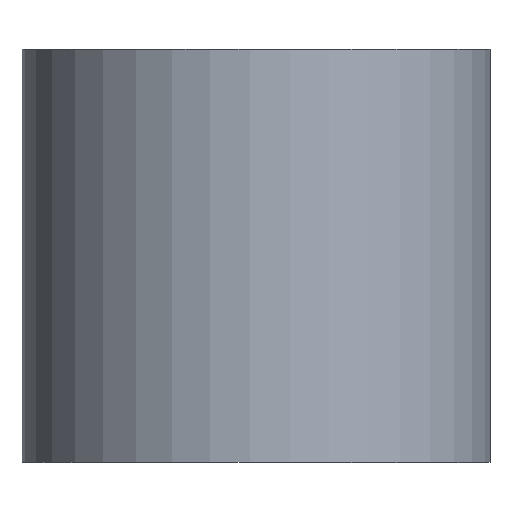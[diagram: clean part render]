
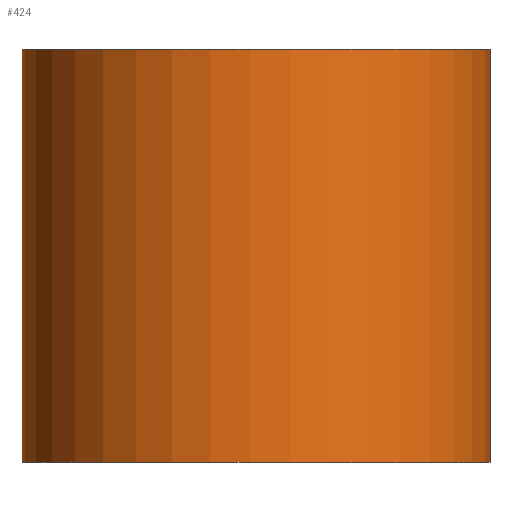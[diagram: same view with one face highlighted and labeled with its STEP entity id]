
A CAD part, top view. The second image highlights one B-rep face of the part: STEP entity #424.
In plain terms, the highlighted cylindrical face has radius 4.5 mm (diameter 9 mm), a partial arc.
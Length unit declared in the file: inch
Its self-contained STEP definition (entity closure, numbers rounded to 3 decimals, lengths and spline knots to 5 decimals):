
#20 = B_SPLINE_CURVE_WITH_KNOTS ( 'NONE', 3,
 ( #251, #719, #786, #331, #46, #596, #666, #723, #279, #507, #296, #756, #456, #584 ),
 .UNSPECIFIED., .F., .F.,
 ( 4, 2, 2, 2, 2, 2, 4 ),
 ( 0., 0.00102, 0.00154, 0.00205, 0.00256, 0.00307, 0.0041 ),
 .UNSPECIFIED. ) ;
#46 = CARTESIAN_POINT ( 'NONE',  ( 0.21364, 0.12962, 0.30715 ) ) ;
#60 = CARTESIAN_POINT ( 'NONE',  ( 0.20149, 0.3125, 0.28834 ) ) ;
#106 = DIRECTION ( 'NONE',  ( 0., -1., 0. ) ) ;
#117 = DIRECTION ( 'NONE',  ( 0., 1., 0. ) ) ;
#130 = EDGE_CURVE ( 'NONE', #204, #426, #779, .T. ) ;
#164 = ORIENTED_EDGE ( 'NONE', *, *, #165, .T. ) ;
#165 = EDGE_CURVE ( 'NONE', #426, #592, #686, .T. ) ;
#183 = CARTESIAN_POINT ( 'NONE',  ( 0.20149, 0.08141, 0.28834 ) ) ;
#187 = VERTEX_POINT ( 'NONE', #600 ) ;
#196 = AXIS2_PLACEMENT_3D ( 'NONE', #747, #753, #552 ) ;
#204 = VERTEX_POINT ( 'NONE', #498 ) ;
#221 = ORIENTED_EDGE ( 'NONE', *, *, #130, .T. ) ;
#251 = CARTESIAN_POINT ( 'NONE',  ( 0.20149, 0.08141, 0.28834 ) ) ;
#257 = AXIS2_PLACEMENT_3D ( 'NONE', #381, #842, #453 ) ;
#262 = VERTEX_POINT ( 'NONE', #817 ) ;
#279 = CARTESIAN_POINT ( 'NONE',  ( 0.21469, 0.16977, 0.30905 ) ) ;
#296 = CARTESIAN_POINT ( 'NONE',  ( 0.21285, 0.18938, 0.30572 ) ) ;
#309 = CIRCLE ( 'NONE', #196, 0.17717 ) ;
#311 = VECTOR ( 'NONE', #117, 39.37008 ) ;
#331 = CARTESIAN_POINT ( 'NONE',  ( 0.21286, 0.12317, 0.30574 ) ) ;
#370 = VECTOR ( 'NONE', #746, 39.37008 ) ;
#381 = CARTESIAN_POINT ( 'NONE',  ( 0.05906, 0.3125, 0.3937 ) ) ;
#394 = LINE ( 'NONE', #413, #370 ) ;
#402 = VECTOR ( 'NONE', #106, 39.37008 ) ;
#406 = CARTESIAN_POINT ( 'NONE',  ( -0.11811, 0.3125, 0.3937 ) ) ;
#413 = CARTESIAN_POINT ( 'NONE',  ( 0.20149, 0.3125, 0.28834 ) ) ;
#421 = DIRECTION ( 'NONE',  ( 0., 1., 0. ) ) ;
#424 = ADVANCED_FACE ( 'NONE', ( #832 ), #494, .T. ) ;
#426 = VERTEX_POINT ( 'NONE', #768 ) ;
#436 = EDGE_CURVE ( 'NONE', #187, #204, #645, .T. ) ;
#450 = VERTEX_POINT ( 'NONE', #725 ) ;
#453 = DIRECTION ( 'NONE',  ( 0., 0., -1. ) ) ;
#456 = CARTESIAN_POINT ( 'NONE',  ( 0.20629, 0.22028, 0.29483 ) ) ;
#494 = CYLINDRICAL_SURFACE ( 'NONE', #257, 0.17717 ) ;
#498 = CARTESIAN_POINT ( 'NONE',  ( -0.11811, 0., 0.3937 ) ) ;
#507 = CARTESIAN_POINT ( 'NONE',  ( 0.21364, 0.18295, 0.30714 ) ) ;
#510 = AXIS2_PLACEMENT_3D ( 'NONE', #677, #421, #735 ) ;
#519 = EDGE_CURVE ( 'NONE', #592, #450, #20, .T. ) ;
#539 = EDGE_LOOP ( 'NONE', ( #865, #687, #785, #801, #221, #164 ) ) ;
#552 = DIRECTION ( 'NONE',  ( 0., 0., 1. ) ) ;
#584 = CARTESIAN_POINT ( 'NONE',  ( 0.20149, 0.23109, 0.28834 ) ) ;
#592 = VERTEX_POINT ( 'NONE', #183 ) ;
#596 = CARTESIAN_POINT ( 'NONE',  ( 0.2147, 0.14284, 0.30906 ) ) ;
#600 = CARTESIAN_POINT ( 'NONE',  ( -0.11811, 0.3125, 0.3937 ) ) ;
#645 = LINE ( 'NONE', #406, #402 ) ;
#666 = CARTESIAN_POINT ( 'NONE',  ( 0.21496, 0.14959, 0.30955 ) ) ;
#674 = EDGE_CURVE ( 'NONE', #450, #262, #394, .T. ) ;
#677 = CARTESIAN_POINT ( 'NONE',  ( 0.05906, 0., 0.3937 ) ) ;
#686 = LINE ( 'NONE', #60, #311 ) ;
#687 = ORIENTED_EDGE ( 'NONE', *, *, #674, .T. ) ;
#719 = CARTESIAN_POINT ( 'NONE',  ( 0.20629, 0.09222, 0.29483 ) ) ;
#723 = CARTESIAN_POINT ( 'NONE',  ( 0.21496, 0.163, 0.30954 ) ) ;
#725 = CARTESIAN_POINT ( 'NONE',  ( 0.20149, 0.23109, 0.28834 ) ) ;
#735 = DIRECTION ( 'NONE',  ( 0., 0., 1. ) ) ;
#746 = DIRECTION ( 'NONE',  ( 0., 1., 0. ) ) ;
#747 = CARTESIAN_POINT ( 'NONE',  ( 0.05906, 0.3125, 0.3937 ) ) ;
#753 = DIRECTION ( 'NONE',  ( 0., 1., 0. ) ) ;
#756 = CARTESIAN_POINT ( 'NONE',  ( 0.20963, 0.20822, 0.30025 ) ) ;
#759 = EDGE_CURVE ( 'NONE', #187, #262, #309, .T. ) ;
#768 = CARTESIAN_POINT ( 'NONE',  ( 0.20149, 0., 0.28834 ) ) ;
#779 = CIRCLE ( 'NONE', #510, 0.17717 ) ;
#785 = ORIENTED_EDGE ( 'NONE', *, *, #759, .F. ) ;
#786 = CARTESIAN_POINT ( 'NONE',  ( 0.20963, 0.10428, 0.30025 ) ) ;
#801 = ORIENTED_EDGE ( 'NONE', *, *, #436, .T. ) ;
#817 = CARTESIAN_POINT ( 'NONE',  ( 0.20149, 0.3125, 0.28834 ) ) ;
#832 = FACE_OUTER_BOUND ( 'NONE', #539, .T. ) ;
#842 = DIRECTION ( 'NONE',  ( 0., -1., 0. ) ) ;
#865 = ORIENTED_EDGE ( 'NONE', *, *, #519, .T. ) ;
